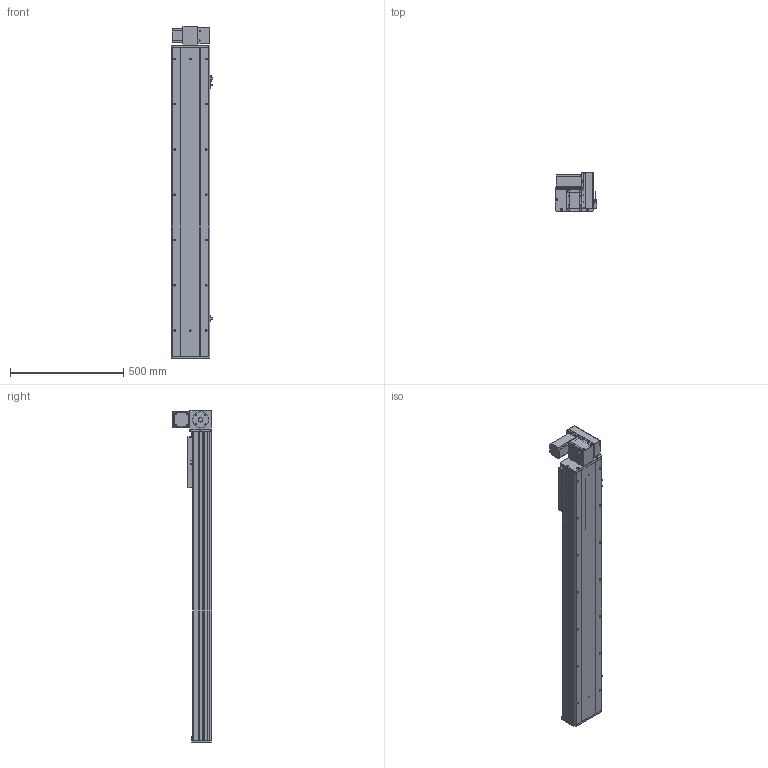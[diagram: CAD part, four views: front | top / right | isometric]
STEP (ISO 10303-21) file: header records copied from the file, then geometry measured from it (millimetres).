
FILE_DESCRIPTION (( 'STEP AP203' ), '1' );
FILE_NAME ('Y170CB-D105-S1050-UR-P400W.STEP', '2020-02-20T04:05:31', ( '微软用户' ), ( '微软中国' ), 'SwSTEP 2.0', 'SolidWorks 2017', '' );
FILE_SCHEMA (( 'CONFIG_CONTROL_DESIGN' ));
Length unit declared in the file: millimetre
Products named in the file (18): Y100-135俋离換覜ん--; B-源倛裔啣; Y170CB-陔俋离換覜結え---; 0B-萇儂楊擘啣; Y1埴倛裔; san松下电机400不带刹车----; 17B-耜蚾蟀諉啣----; 70CB-掛极-; 00B-俋欶BM--163; 70CB--耜裔; --70CB --喘謫眊楊擘啣-; 70B喘謫眊----; 70C-雄赽釱-奻-; 70CB-耜裔啣-; Y170CB-D105-S1050-UR-P400W; 0C--雄赽釱俋欶-170; 70C--詩湍揤踡え-; 70CB-詩湍--
Assembly tree (21 placements, depth 2):
  Y170CB-D105-S1050-UR-P400W
    B-源倛裔啣
    0B-萇儂楊擘啣
    san松下电机400不带刹车----
    70CB-掛极-
    --70CB --喘謫眊楊擘啣-
    70CB-耜裔啣-  x2
    70C--詩湍揤踡え-  x2
    70CB--耜裔
    70C-雄赽釱-奻-
    0C--雄赽釱俋欶-170
    70CB-詩湍--
    Y100-135俋离換覜ん--  x3
    Y170CB-陔俋离換覜結え---
    Y1埴倛裔
    17B-耜蚾蟀諉啣----
    00B-俋欶BM--163
    70B喘謫眊----
Bounding box: 183.5 x 174 x 1466 mm (x, y, z)
Volume: 6736761.3 mm3; surface area: 2415335.5 mm2
Topology: 21 solids, 21 shells, 1007 faces, 2693 edges, 1786 vertices
Faces by surface type: cylinder 521, plane 462, cone 24
Entity records: 32036 total; most frequent: CARTESIAN_POINT 5856, DIRECTION 5210, ORIENTED_EDGE 4868, EDGE_CURVE 2434, AXIS2_PLACEMENT_3D 1908, VERTEX_POINT 1616, LINE 1394, VECTOR 1394
